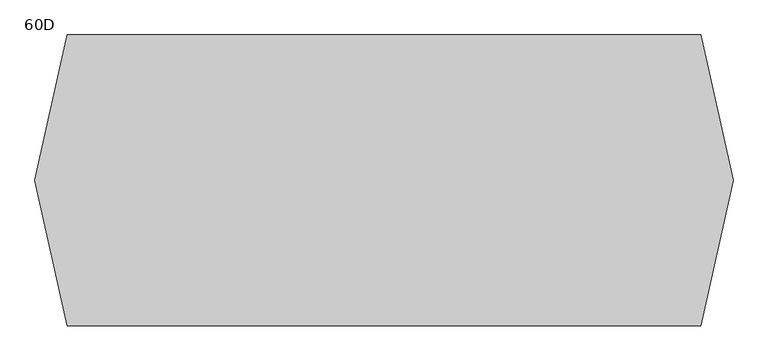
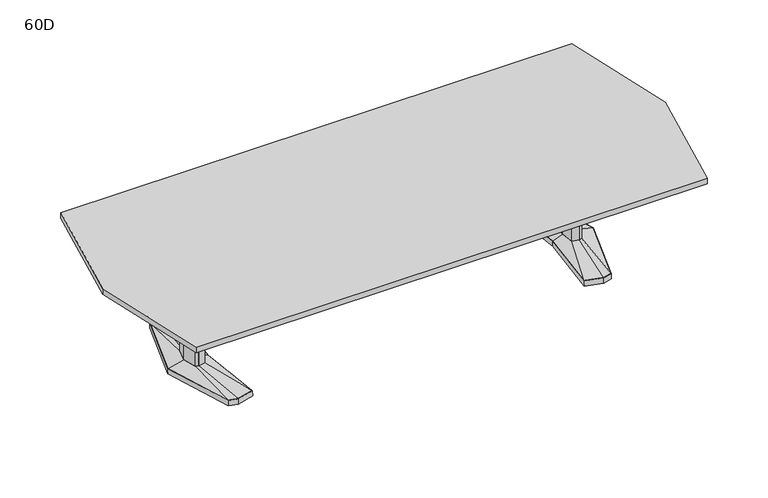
"""IFC4 building model written with IfcOpenShell, lengths in millimetres: furniture geometry, Coalesse_AM_Table_Conference_ETable2_Faceted_12ft_AluminiumBase : 60D."""

from ifc_helpers import new_model, si_unit, frame, origin, place, context, project, spatial, polyline, outline, extrude, faceted_brep, source, transform, mapped, element, save
from ifc_brep_helpers import plane_surface, spline_surface, advanced_brep


def furniture_60d_de2b4f89(model_context):
    return source(origin(), model_context, "Body", "SolidModel", [
        faceted_brep([(1165.3869335, 455.5848221, 38.1), (1055.8093777, 426.2263816, 38.1), (1096.9726217, 0.0, 38.1), (1055.8093777, -426.2263816, 38.1), (1165.3869335, -455.5848221, 38.1), (1221.5132896, -440.5478297, 38.1), (1358.8246769, 0.0, 38.1), (1221.5132896, 440.5478297, 38.1), (1165.3869254, 457.2283104, 3.175), (1222.7686972, 441.8549756, 3.175), (1360.4875, 0.0, 3.175), (1222.7686972, -441.8549756, 3.175), (1165.3869254, -457.2283104, 3.175), (1054.1, -427.4118891, 3.175), (1095.3777356, 0.0, 3.175), (1054.1, 427.4118891, 3.175), (1168.976365, 428.3273875, 3.175), (1063.9280728, 402.1057253, 3.175), (1072.046768, 377.985069, 3.175), (1172.5657966, 401.0699529, 3.175), (1223.1254225, 387.524361, 3.175), (1222.3193561, 414.0360954, 3.175), (1168.976365, -428.3273875, 3.175), (1222.3193561, -414.0360954, 3.175), (1223.1254225, -387.524361, 3.175), (1172.5657966, -401.0699529, 3.175), (1072.046768, -377.985069, 3.175), (1063.9280728, -402.1057253, 3.175), (1295.5716121, 0.0, 3.175), (1263.3022111, 120.4193755, 3.175), (1214.6549722, 133.471665, 3.175), (1134.7743026, 119.4176561, 3.175), (1123.6430966, 0.0, 3.175), (1134.7743026, -119.4176561, 3.175), (1214.6549722, -133.471665, 3.175), (1263.3022111, -120.4193755, 3.175), (1168.976365, 428.3273875, 0.0), (1222.3193561, 414.0360954, 0.0), (1223.1254225, 387.524361, 0.0), (1172.5657966, 401.0699529, 0.0), (1072.046768, 377.985069, 0.0), (1063.9280728, 402.1057253, 0.0), (1168.976365, -428.3273875, 0.0), (1063.9280728, -402.1057253, 0.0), (1072.046768, -377.985069, 0.0), (1172.5657966, -401.0699529, 0.0), (1223.1254225, -387.524361, 0.0), (1222.3193561, -414.0360954, 0.0), (1295.5716121, 0.0, 0.0), (1263.3022111, -120.4193755, 0.0), (1214.6549722, -133.471665, 0.0), (1134.7743026, -119.4176561, 0.0), (1123.6430966, 0.0, 0.0), (1134.7743026, 119.4176561, 0.0), (1214.6549722, 133.471665, 0.0), (1263.3022111, 120.4193755, 0.0)], [[[0, 1, 2, 3, 4, 5, 6, 7]], [[8, 9, 10, 11, 12, 13, 14, 15], [16, 17, 18, 19, 20, 21], [22, 23, 24, 25, 26, 27], [28, 29, 30, 31, 32, 33, 34, 35]], [[7, 9, 8, 0]], [[6, 10, 9, 7]], [[5, 11, 10, 6]], [[4, 12, 11, 5]], [[3, 13, 12, 4]], [[2, 14, 13, 3]], [[1, 15, 14, 2]], [[0, 8, 15, 1]], [[36, 37, 38, 39, 40, 41]], [[42, 43, 44, 45, 46, 47]], [[48, 49, 50, 51, 52, 53, 54, 55]], [[36, 16, 21, 37]], [[37, 21, 20, 38]], [[38, 20, 19, 39]], [[39, 19, 18, 40]], [[40, 18, 17, 41]], [[41, 17, 16, 36]], [[42, 22, 27, 43]], [[43, 27, 26, 44]], [[44, 26, 25, 45]], [[45, 25, 24, 46]], [[46, 24, 23, 47]], [[47, 23, 22, 42]], [[48, 28, 35, 49]], [[49, 35, 34, 50]], [[50, 34, 33, 51]], [[51, 33, 32, 52]], [[52, 32, 31, 53]], [[53, 31, 30, 54]], [[54, 30, 29, 55]], [[55, 29, 28, 48]]]),
        faceted_brep([(1256.1273336, 0.0, 698.5), (1232.1921046, 89.3188359, 698.5), (1215.3387484, 93.8406728, 698.5), (1212.9389011, 94.4845635, 698.5), (1170.011396, 86.9320037, 698.5), (1161.9082556, 0.0, 698.5), (1170.011396, -86.9320037, 698.5), (1212.9389011, -94.4845635, 698.5), (1215.3387484, -93.8406728, 698.5), (1232.1921046, -89.3188359, 698.5), (1256.1273336, 0.0, 63.5), (1232.1921046, -89.3188359, 63.5), (1215.3387484, -93.8406728, 63.5), (1212.9389011, -94.4845635, 63.5), (1170.011396, -86.9320037, 63.5), (1161.9082556, 0.0, 63.5), (1170.011396, 86.9320037, 63.5), (1212.9389011, 94.4845635, 63.5), (1215.3387484, 93.8406728, 63.5), (1232.1921046, 89.3188359, 63.5)], [[[0, 1, 2, 3, 4, 5, 6, 7, 8, 9]], [[10, 11, 12, 13, 14, 15, 16, 17, 18, 19]], [[9, 11, 10, 0]], [[8, 12, 11, 9]], [[7, 13, 12, 8]], [[6, 14, 13, 7]], [[5, 15, 14, 6]], [[4, 16, 15, 5]], [[3, 17, 16, 4]], [[2, 18, 17, 3]], [[1, 19, 18, 2]], [[0, 10, 19, 1]]]),
        advanced_brep(
        [(1212.9389011, 94.4845635, 63.5), (1170.011396, 86.9320037, 63.5), (1161.9082556, 0.0, 63.5), (1170.011396, -86.9320037, 63.5), (1212.9389011, -94.4845635, 63.5), (1232.1921046, -89.3188359, 63.5), (1256.1273336, 0.0, 63.5), (1232.1921046, 89.3188359, 63.5), (1165.3869335, 455.5848221, 38.1), (1221.5132896, 440.5478297, 38.1), (1358.8246769, 0.0, 38.1), (1221.5132896, -440.5478297, 38.1), (1165.3869335, -455.5848221, 38.1), (1055.8093777, -426.2263816, 38.1), (1096.9726217, 0.0, 38.1), (1055.8093777, 426.2263816, 38.1)],
        [
            (0, 1),
            (1, 2),
            (2, 3),
            (3, 4),
            (4, 5),
            (5, 6),
            (6, 7),
            (7, 0),
            (8, 9),
            (9, 10),
            (10, 11),
            (11, 12),
            (12, 13),
            (13, 14),
            (14, 15),
            (15, 8),
            (8, 0),
            (7, 9),
            (6, 10),
            (5, 11),
            (4, 12),
            (3, 13),
            (2, 14),
            (1, 15),
        ],
        [
            plane_surface(frame((1206.0400491, 0.0, 63.5), z_axis=(0.0, 0.0, 1.0), x_axis=(-0.25884244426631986, -0.9659195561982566, 0.0))),
            plane_surface(frame((1167.6520625, 0.0, 38.1), z_axis=(0.0, 0.0, -1.0), x_axis=(-0.25884244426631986, -0.9659195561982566, 0.0))),
            spline_surface(1, 1, [[(1165.3869335, 455.5848221, 38.1), (1221.5132896, 440.5478297, 38.1)], [(1212.9389011, 94.4845635, 63.5), (1232.1921046, 89.3188359, 63.5)]], [2, 2], [2, 2], [0.0, 1.0], [0.0, 1.0]),
            spline_surface(1, 1, [[(1221.5132896, 440.5478297, 38.1), (1358.8246769, 0.0, 38.1)], [(1232.1921046, 89.3188359, 63.5), (1256.1273336, 0.0, 63.5)]], [2, 2], [2, 2], [0.0, 1.0], [0.0, 1.0]),
            spline_surface(1, 1, [[(1358.8246769, 0.0, 38.1), (1221.5132896, -440.5478297, 38.1)], [(1256.1273336, 0.0, 63.5), (1232.1921046, -89.3188359, 63.5)]], [2, 2], [2, 2], [0.0, 1.0], [0.0, 1.0]),
            spline_surface(1, 1, [[(1221.5132896, -440.5478297, 38.1), (1165.3869335, -455.5848221, 38.1)], [(1232.1921046, -89.3188359, 63.5), (1212.9389011, -94.4845635, 63.5)]], [2, 2], [2, 2], [0.0, 1.0], [0.0, 1.0]),
            spline_surface(1, 1, [[(1165.3869335, -455.5848221, 38.1), (1055.8093777, -426.2263816, 38.1)], [(1212.9389011, -94.4845635, 63.5), (1170.011396, -86.9320037, 63.5)]], [2, 2], [2, 2], [0.0, 1.0], [0.0, 1.0]),
            spline_surface(1, 1, [[(1055.8093777, -426.2263816, 38.1), (1096.9726217, 0.0, 38.1)], [(1170.011396, -86.9320037, 63.5), (1161.9082556, 0.0, 63.5)]], [2, 2], [2, 2], [0.0, 1.0], [0.0, 1.0]),
            spline_surface(1, 1, [[(1096.9726217, 0.0, 38.1), (1055.8093777, 426.2263816, 38.1)], [(1161.9082556, 0.0, 63.5), (1170.011396, 86.9320037, 63.5)]], [2, 2], [2, 2], [0.0, 1.0], [0.0, 1.0]),
            spline_surface(1, 1, [[(1055.8093777, 426.2263816, 38.1), (1165.3869335, 455.5848221, 38.1)], [(1170.011396, 86.9320037, 63.5), (1212.9389011, 94.4845635, 63.5)]], [2, 2], [2, 2], [0.0, 1.0], [0.0, 1.0]),
        ],
        [
            (0, [[1, 2, 3, 4, 5, 6, 7, 8]]),
            (1, [[9, 10, 11, 12, 13, 14, 15, 16]]),
            (2, [[17, -8, 18, -9]]),
            (3, [[-18, -7, 19, -10]]),
            (4, [[-19, -6, 20, -11]]),
            (5, [[-20, -5, 21, -12]]),
            (6, [[-21, -4, 22, -13]]),
            (7, [[-22, -3, 23, -14]]),
            (8, [[-23, -2, 24, -15]]),
            (9, [[-24, -1, -17, -16]]),
        ],
    ),
        faceted_brep([(-1210.6306835, 455.5848221, 38.1), (-1266.7570396, 440.5478297, 38.1), (-1404.0684269, 0.0, 38.1), (-1266.7570396, -440.5478297, 38.1), (-1210.6306835, -455.5848221, 38.1), (-1101.0531277, -426.2263816, 38.1), (-1142.2163717, 0.0, 38.1), (-1101.0531277, 426.2263816, 38.1), (-1210.6306754, 457.2283104, 3.175), (-1099.34375, 427.4118891, 3.175), (-1140.6214856, 0.0, 3.175), (-1099.34375, -427.4118891, 3.175), (-1210.6306754, -457.2283104, 3.175), (-1268.0124472, -441.8549756, 3.175), (-1405.73125, 0.0, 3.175), (-1268.0124472, 441.8549756, 3.175), (-1214.220115, 428.3273875, 3.175), (-1267.5631061, 414.0360954, 3.175), (-1268.3691725, 387.524361, 3.175), (-1217.8095466, 401.0699529, 3.175), (-1117.290518, 377.985069, 3.175), (-1109.1718228, 402.1057253, 3.175), (-1214.220115, -428.3273875, 3.175), (-1109.1718228, -402.1057253, 3.175), (-1117.290518, -377.985069, 3.175), (-1217.8095466, -401.0699529, 3.175), (-1268.3691725, -387.524361, 3.175), (-1267.5631061, -414.0360954, 3.175), (-1340.8153621, 0.0, 3.175), (-1308.5459611, -120.4193755, 3.175), (-1259.8987222, -133.471665, 3.175), (-1180.0180526, -119.4176561, 3.175), (-1168.8868466, 0.0, 3.175), (-1180.0180526, 119.4176561, 3.175), (-1259.8987222, 133.471665, 3.175), (-1308.5459611, 120.4193755, 3.175), (-1214.220115, 428.3273875, 0.0), (-1109.1718228, 402.1057253, 0.0), (-1117.290518, 377.985069, 0.0), (-1217.8095466, 401.0699529, 0.0), (-1268.3691725, 387.524361, 0.0), (-1267.5631061, 414.0360954, 0.0), (-1214.220115, -428.3273875, 0.0), (-1267.5631061, -414.0360954, 0.0), (-1268.3691725, -387.524361, 0.0), (-1217.8095466, -401.0699529, 0.0), (-1117.290518, -377.985069, 0.0), (-1109.1718228, -402.1057253, 0.0), (-1340.8153621, 0.0, 0.0), (-1308.5459611, 120.4193755, 0.0), (-1259.8987222, 133.471665, 0.0), (-1180.0180526, 119.4176561, 0.0), (-1168.8868466, 0.0, 0.0), (-1180.0180526, -119.4176561, 0.0), (-1259.8987222, -133.471665, 0.0), (-1308.5459611, -120.4193755, 0.0)], [[[0, 1, 2, 3, 4, 5, 6, 7]], [[8, 9, 10, 11, 12, 13, 14, 15], [16, 17, 18, 19, 20, 21], [22, 23, 24, 25, 26, 27], [28, 29, 30, 31, 32, 33, 34, 35]], [[1, 0, 8, 15]], [[2, 1, 15, 14]], [[3, 2, 14, 13]], [[4, 3, 13, 12]], [[5, 4, 12, 11]], [[6, 5, 11, 10]], [[7, 6, 10, 9]], [[0, 7, 9, 8]], [[36, 37, 38, 39, 40, 41]], [[42, 43, 44, 45, 46, 47]], [[48, 49, 50, 51, 52, 53, 54, 55]], [[36, 41, 17, 16]], [[41, 40, 18, 17]], [[40, 39, 19, 18]], [[39, 38, 20, 19]], [[38, 37, 21, 20]], [[37, 36, 16, 21]], [[42, 47, 23, 22]], [[47, 46, 24, 23]], [[46, 45, 25, 24]], [[45, 44, 26, 25]], [[44, 43, 27, 26]], [[43, 42, 22, 27]], [[48, 55, 29, 28]], [[55, 54, 30, 29]], [[54, 53, 31, 30]], [[53, 52, 32, 31]], [[52, 51, 33, 32]], [[51, 50, 34, 33]], [[50, 49, 35, 34]], [[49, 48, 28, 35]]]),
        faceted_brep([(-1301.3710836, 0.0, 698.5), (-1277.4358546, -89.3188359, 698.5), (-1260.5824984, -93.8406728, 698.5), (-1258.1826511, -94.4845635, 698.5), (-1215.255146, -86.9320037, 698.5), (-1207.1520056, 0.0, 698.5), (-1215.255146, 86.9320037, 698.5), (-1258.1826511, 94.4845635, 698.5), (-1260.5824984, 93.8406728, 698.5), (-1277.4358546, 89.3188359, 698.5), (-1301.3710836, 0.0, 63.5), (-1277.4358546, 89.3188359, 63.5), (-1260.5824984, 93.8406728, 63.5), (-1258.1826511, 94.4845635, 63.5), (-1215.255146, 86.9320037, 63.5), (-1207.1520056, 0.0, 63.5), (-1215.255146, -86.9320037, 63.5), (-1258.1826511, -94.4845635, 63.5), (-1260.5824984, -93.8406728, 63.5), (-1277.4358546, -89.3188359, 63.5)], [[[0, 1, 2, 3, 4, 5, 6, 7, 8, 9]], [[10, 11, 12, 13, 14, 15, 16, 17, 18, 19]], [[1, 0, 10, 19]], [[2, 1, 19, 18]], [[3, 2, 18, 17]], [[4, 3, 17, 16]], [[5, 4, 16, 15]], [[6, 5, 15, 14]], [[7, 6, 14, 13]], [[8, 7, 13, 12]], [[9, 8, 12, 11]], [[0, 9, 11, 10]]]),
        advanced_brep(
        [(-1258.1826511, 94.4845635, 63.5), (-1277.4358546, 89.3188359, 63.5), (-1301.3710836, 0.0, 63.5), (-1277.4358546, -89.3188359, 63.5), (-1258.1826511, -94.4845635, 63.5), (-1215.255146, -86.9320037, 63.5), (-1207.1520056, 0.0, 63.5), (-1215.255146, 86.9320037, 63.5), (-1210.6306835, 455.5848221, 38.1), (-1101.0531277, 426.2263816, 38.1), (-1142.2163717, 0.0, 38.1), (-1101.0531277, -426.2263816, 38.1), (-1210.6306835, -455.5848221, 38.1), (-1266.7570396, -440.5478297, 38.1), (-1404.0684269, 0.0, 38.1), (-1266.7570396, 440.5478297, 38.1)],
        [
            (0, 1),
            (1, 2),
            (2, 3),
            (3, 4),
            (4, 5),
            (5, 6),
            (6, 7),
            (7, 0),
            (8, 9),
            (9, 10),
            (10, 11),
            (11, 12),
            (12, 13),
            (13, 14),
            (14, 15),
            (15, 8),
            (15, 1),
            (0, 8),
            (14, 2),
            (13, 3),
            (12, 4),
            (11, 5),
            (10, 6),
            (9, 7),
        ],
        [
            plane_surface(frame((-1251.2837991, 0.0, 63.5), z_axis=(0.0, 0.0, 1.0), x_axis=(0.25884244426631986, -0.9659195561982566, 0.0))),
            plane_surface(frame((-1212.8958125, 0.0, 38.1), z_axis=(0.0, 0.0, -1.0), x_axis=(0.25884244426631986, -0.9659195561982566, 0.0))),
            spline_surface(1, 1, [[(-1210.6306835, 455.5848221, 38.1), (-1258.1826511, 94.4845635, 63.5)], [(-1266.7570396, 440.5478297, 38.1), (-1277.4358546, 89.3188359, 63.5)]], [2, 2], [2, 2], [0.0, 1.0], [0.0, 1.0]),
            spline_surface(1, 1, [[(-1266.7570396, 440.5478297, 38.1), (-1277.4358546, 89.3188359, 63.5)], [(-1404.0684269, 0.0, 38.1), (-1301.3710836, 0.0, 63.5)]], [2, 2], [2, 2], [0.0, 1.0], [0.0, 1.0]),
            spline_surface(1, 1, [[(-1404.0684269, 0.0, 38.1), (-1301.3710836, 0.0, 63.5)], [(-1266.7570396, -440.5478297, 38.1), (-1277.4358546, -89.3188359, 63.5)]], [2, 2], [2, 2], [0.0, 1.0], [0.0, 1.0]),
            spline_surface(1, 1, [[(-1266.7570396, -440.5478297, 38.1), (-1277.4358546, -89.3188359, 63.5)], [(-1210.6306835, -455.5848221, 38.1), (-1258.1826511, -94.4845635, 63.5)]], [2, 2], [2, 2], [0.0, 1.0], [0.0, 1.0]),
            spline_surface(1, 1, [[(-1210.6306835, -455.5848221, 38.1), (-1258.1826511, -94.4845635, 63.5)], [(-1101.0531277, -426.2263816, 38.1), (-1215.255146, -86.9320037, 63.5)]], [2, 2], [2, 2], [0.0, 1.0], [0.0, 1.0]),
            spline_surface(1, 1, [[(-1101.0531277, -426.2263816, 38.1), (-1215.255146, -86.9320037, 63.5)], [(-1142.2163717, 0.0, 38.1), (-1207.1520056, 0.0, 63.5)]], [2, 2], [2, 2], [0.0, 1.0], [0.0, 1.0]),
            spline_surface(1, 1, [[(-1142.2163717, 0.0, 38.1), (-1207.1520056, 0.0, 63.5)], [(-1101.0531277, 426.2263816, 38.1), (-1215.255146, 86.9320037, 63.5)]], [2, 2], [2, 2], [0.0, 1.0], [0.0, 1.0]),
            spline_surface(1, 1, [[(-1101.0531277, 426.2263816, 38.1), (-1215.255146, 86.9320037, 63.5)], [(-1210.6306835, 455.5848221, 38.1), (-1258.1826511, 94.4845635, 63.5)]], [2, 2], [2, 2], [0.0, 1.0], [0.0, 1.0]),
        ],
        [
            (0, [[1, 2, 3, 4, 5, 6, 7, 8]]),
            (1, [[9, 10, 11, 12, 13, 14, 15, 16]]),
            (2, [[-16, 17, -1, 18]]),
            (3, [[-15, 19, -2, -17]]),
            (4, [[-14, 20, -3, -19]]),
            (5, [[-13, 21, -4, -20]]),
            (6, [[-12, 22, -5, -21]]),
            (7, [[-11, 23, -6, -22]]),
            (8, [[-10, 24, -7, -23]]),
            (9, [[-9, -18, -8, -24]]),
        ],
    ),
        extrude(outline(polyline([(-1828.8, 0.0), (-1659.8677242, 762.0), (1659.8677242, 762.0), (1828.8, 0.0), (1659.8677242, -762.0), (-1659.8677242, -762.0), (-1828.8, 0.0)])), frame((0.0, 0.0, 698.5), z_axis=(0.0, 0.0, 1.0), x_axis=(1.0, 0.0, 0.0)), (0.0, 0.0, 1.0), 38.1),
        extrude(outline(polyline([(96.8375, 698.5), (103.1875, 698.5), (103.1875, 476.25), (-103.1875, 476.25), (-103.1875, 698.5), (-96.8375, 698.5), (-96.8375, 482.6), (96.8375, 482.6), (96.8375, 698.5)])), frame((-1207.29375, 0.0, 0.0), z_axis=(1.0, 0.0, 0.0), x_axis=(0.0, 1.0, 0.0)), (0.0, 0.0, 1.0), 2414.5875),
    ])


if __name__ == "__main__":
    model = new_model("IFC4")
    model_context = context("Model", 3, world=origin())
    ifc_project = project(units=[si_unit("LENGTHUNIT", "METRE", prefix="MILLI")], contexts=[model_context])
    site = spatial("IfcSite", under=ifc_project)
    building = spatial("IfcBuilding", under=site)
    placement = place(None, origin())
    furniture_60d_shape = furniture_60d_de2b4f89(model_context)
    element("IfcFurniture", 1, ObjectType="Coalesse_AM_Table_Conference_ETable2_Faceted_12ft_AluminiumBase : 60D", at=placement, inside=building, context=model_context, shape_type="MappedRepresentation", body=[
        mapped(furniture_60d_shape, transform((0.0, 0.0, 0.0), x_axis=(1.0, 0.0, 0.0), y_axis=(0.0, 1.0, 0.0), z_axis=(0.0, 0.0, 1.0))),
    ])
    save(model, "model.ifc")
